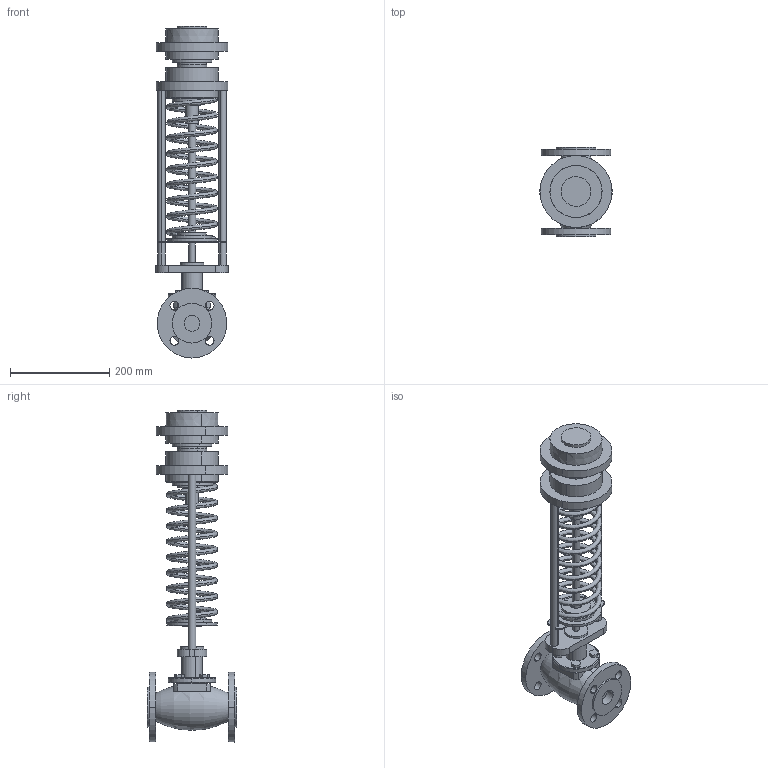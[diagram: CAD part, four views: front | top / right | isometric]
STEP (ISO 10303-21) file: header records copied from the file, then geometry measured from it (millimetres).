
FILE_DESCRIPTION (( 'STEP AP214' ), '1' );
FILE_NAME ('RDT-S, RDT-B DN-32 (0.1).STEP', '2025-12-12T09:20:39', ( '' ), ( '' ), 'SwSTEP 2.0', 'SolidWorks 2023', '' );
FILE_SCHEMA (( 'AUTOMOTIVE_DESIGN' ));
Length unit declared in the file: millimetre
Products named in the file (1): RDT-S, RDT-B DN-32 (0.1)
Bounding box: 145 x 180 x 668 mm (x, y, z)
Volume: 3411525.4 mm3; surface area: 424357.4 mm2
Topology: 1 solids, 3 shells, 222 faces, 520 edges, 337 vertices
Faces by surface type: cylinder 106, plane 90, cone 22, torus 2, bspline 2
Entity records: 9772 total; most frequent: CARTESIAN_POINT 4379, DIRECTION 1214, ORIENTED_EDGE 1040, EDGE_CURVE 520, AXIS2_PLACEMENT_3D 481, VERTEX_POINT 337, EDGE_LOOP 279, CIRCLE 260
